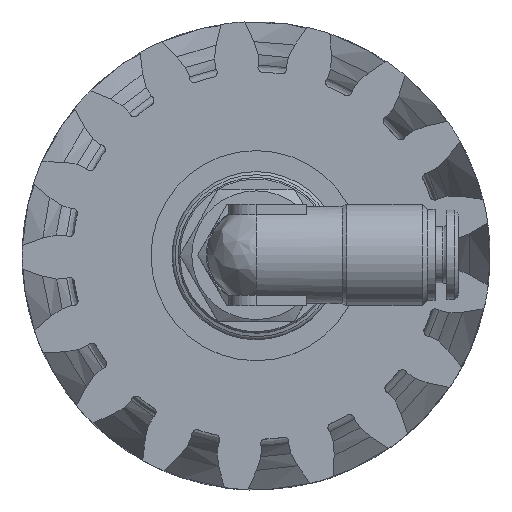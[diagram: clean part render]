
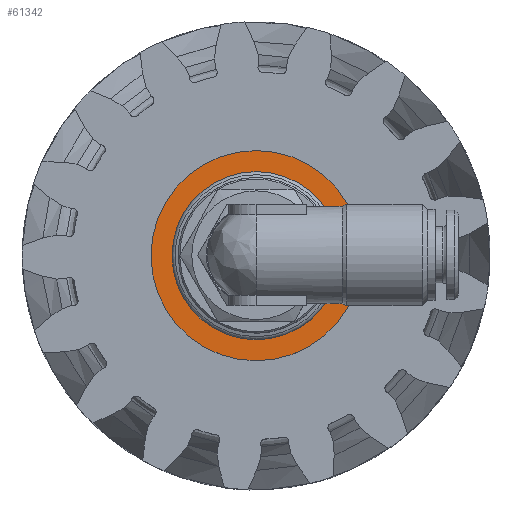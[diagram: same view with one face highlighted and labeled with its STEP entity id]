
A CAD part, top view. The second image highlights one B-rep face of the part: STEP entity #61342.
In plain terms, the highlighted planar face has unit normal (0, 0, 1) as drawn and (0, 1, 0) by its records, which use the part's own axes.
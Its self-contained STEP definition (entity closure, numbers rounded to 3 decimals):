
#998 = DIRECTION ( 'NONE',  ( 0., 0., -1. ) ) ;
#8725 = EDGE_CURVE ( 'NONE', #62114, #62114, #37025, .T. ) ;
#8934 = EDGE_LOOP ( 'NONE', ( #46668 ) ) ;
#11452 = CARTESIAN_POINT ( 'NONE',  ( 0., 0.6, 0. ) ) ;
#18729 = CIRCLE ( 'NONE', #44072, 10.8 ) ;
#19827 = PLANE ( 'NONE',  #63987 ) ;
#21139 = FACE_BOUND ( 'NONE', #8934, .T. ) ;
#22027 = DIRECTION ( 'NONE',  ( 0., 1., 0. ) ) ;
#25595 = VERTEX_POINT ( 'NONE', #49748 ) ;
#25903 = EDGE_CURVE ( 'NONE', #25595, #25595, #18729, .T. ) ;
#29891 = DIRECTION ( 'NONE',  ( 0., 1., 0. ) ) ;
#31438 = FACE_OUTER_BOUND ( 'NONE', #32676, .T. ) ;
#32676 = EDGE_LOOP ( 'NONE', ( #45801 ) ) ;
#36357 = DIRECTION ( 'NONE',  ( 0., -1., 0. ) ) ;
#37025 = CIRCLE ( 'NONE', #45491, 13.5 ) ;
#40788 = CARTESIAN_POINT ( 'NONE',  ( 0., 0.6, 0. ) ) ;
#44072 = AXIS2_PLACEMENT_3D ( 'NONE', #11452, #22027, #62374 ) ;
#45491 = AXIS2_PLACEMENT_3D ( 'NONE', #40788, #29891, #55330 ) ;
#45801 = ORIENTED_EDGE ( 'NONE', *, *, #8725, .T. ) ;
#46668 = ORIENTED_EDGE ( 'NONE', *, *, #25903, .F. ) ;
#49748 = CARTESIAN_POINT ( 'NONE',  ( 0., 0.6, 10.8 ) ) ;
#55330 = DIRECTION ( 'NONE',  ( 0., 0., 1. ) ) ;
#58347 = CARTESIAN_POINT ( 'NONE',  ( 0., 0.6, 13.5 ) ) ;
#61342 = ADVANCED_FACE ( 'NONE', ( #21139, #31438 ), #19827, .F. ) ;
#61496 = CARTESIAN_POINT ( 'NONE',  ( 13.5, 0.6, 0. ) ) ;
#62114 = VERTEX_POINT ( 'NONE', #58347 ) ;
#62374 = DIRECTION ( 'NONE',  ( 0., 0., 1. ) ) ;
#63987 = AXIS2_PLACEMENT_3D ( 'NONE', #61496, #36357, #998 ) ;
